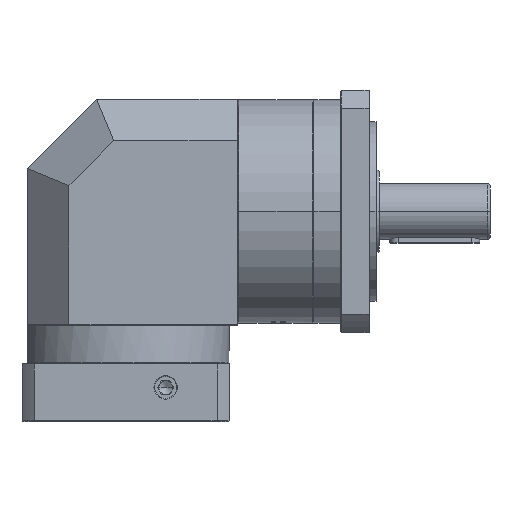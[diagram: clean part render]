
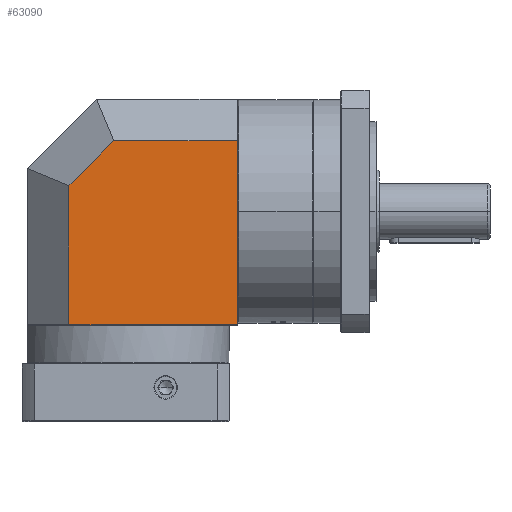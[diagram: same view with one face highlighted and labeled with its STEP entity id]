
A CAD part, top view. The second image highlights one B-rep face of the part: STEP entity #63090.
In plain terms, the highlighted planar face has unit normal (0, 0, 1).
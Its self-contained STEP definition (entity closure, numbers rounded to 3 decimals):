
#38 = DIRECTION ( 'NONE',  ( 1., 0., 0. ) ) ;
#1674 = VERTEX_POINT ( 'NONE', #123439 ) ;
#3956 = ORIENTED_EDGE ( 'NONE', *, *, #127285, .F. ) ;
#4856 = EDGE_CURVE ( 'NONE', #6934, #1674, #107481, .T. ) ;
#6934 = VERTEX_POINT ( 'NONE', #66045 ) ;
#7135 = LINE ( 'NONE', #149006, #138241 ) ;
#8362 = VECTOR ( 'NONE', #96170, 1000. ) ;
#8846 = DIRECTION ( 'NONE',  ( 1., 0., 0. ) ) ;
#11745 = ORIENTED_EDGE ( 'NONE', *, *, #24039, .T. ) ;
#15592 = DIRECTION ( 'NONE',  ( 0., -1., 0. ) ) ;
#15789 = DIRECTION ( 'NONE',  ( 0., -1., 0. ) ) ;
#20610 = LINE ( 'NONE', #147454, #88054 ) ;
#23181 = CARTESIAN_POINT ( 'NONE',  ( 59.824, -86.026, 274.665 ) ) ;
#23303 = VECTOR ( 'NONE', #8846, 1000. ) ;
#24039 = EDGE_CURVE ( 'NONE', #6934, #100292, #7135, .T. ) ;
#35375 = LINE ( 'NONE', #135091, #136593 ) ;
#35893 = EDGE_CURVE ( 'NONE', #52982, #51695, #47770, .T. ) ;
#47282 = DIRECTION ( 'NONE',  ( 0., 0., 1. ) ) ;
#47770 = LINE ( 'NONE', #82643, #8362 ) ;
#51695 = VERTEX_POINT ( 'NONE', #146067 ) ;
#52982 = VERTEX_POINT ( 'NONE', #54808 ) ;
#54808 = CARTESIAN_POINT ( 'NONE',  ( 13.724, -167.276, 274.665 ) ) ;
#63090 = ADVANCED_FACE ( 'NONE', ( #74361 ), #71833, .T. ) ;
#64251 = DIRECTION ( 'NONE',  ( -0.707, -0.707, 0. ) ) ;
#64826 = EDGE_LOOP ( 'NONE', ( #97177, #3956, #99869, #11745, #142505 ) ) ;
#65685 = EDGE_CURVE ( 'NONE', #100292, #52982, #20610, .T. ) ;
#66045 = CARTESIAN_POINT ( 'NONE',  ( 46.15, -34.276, 274.665 ) ) ;
#71833 = PLANE ( 'NONE',  #143520 ) ;
#74361 = FACE_OUTER_BOUND ( 'NONE', #64826, .T. ) ;
#82643 = CARTESIAN_POINT ( 'NONE',  ( 59.824, -167.276, 274.665 ) ) ;
#88054 = VECTOR ( 'NONE', #15592, 1000. ) ;
#96170 = DIRECTION ( 'NONE',  ( 1., 0., 0. ) ) ;
#97177 = ORIENTED_EDGE ( 'NONE', *, *, #35893, .T. ) ;
#99869 = ORIENTED_EDGE ( 'NONE', *, *, #4856, .F. ) ;
#100292 = VERTEX_POINT ( 'NONE', #128522 ) ;
#105107 = CARTESIAN_POINT ( 'NONE',  ( 59.824, -34.276, 274.665 ) ) ;
#107481 = LINE ( 'NONE', #105107, #23303 ) ;
#123439 = CARTESIAN_POINT ( 'NONE',  ( 135.424, -34.276, 274.665 ) ) ;
#127285 = EDGE_CURVE ( 'NONE', #1674, #51695, #35375, .T. ) ;
#128522 = CARTESIAN_POINT ( 'NONE',  ( 13.724, -66.702, 274.665 ) ) ;
#135091 = CARTESIAN_POINT ( 'NONE',  ( 135.424, -86.026, 274.665 ) ) ;
#136593 = VECTOR ( 'NONE', #15789, 1000. ) ;
#138241 = VECTOR ( 'NONE', #64251, 1000. ) ;
#142505 = ORIENTED_EDGE ( 'NONE', *, *, #65685, .T. ) ;
#143520 = AXIS2_PLACEMENT_3D ( 'NONE', #23181, #47282, #38 ) ;
#146067 = CARTESIAN_POINT ( 'NONE',  ( 135.424, -167.276, 274.665 ) ) ;
#147454 = CARTESIAN_POINT ( 'NONE',  ( 13.724, -86.026, 274.665 ) ) ;
#149006 = CARTESIAN_POINT ( 'NONE',  ( 46.15, -34.276, 274.665 ) ) ;
